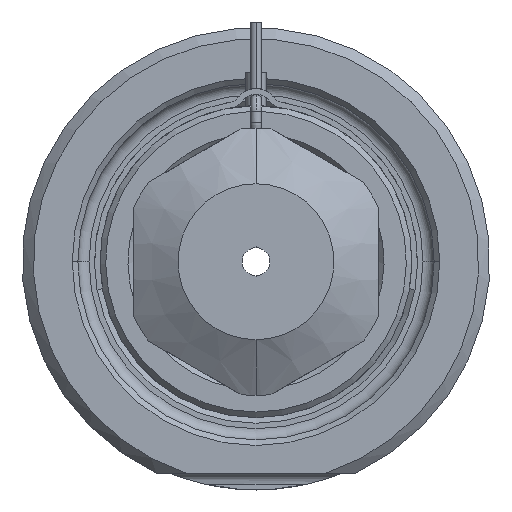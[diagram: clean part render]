
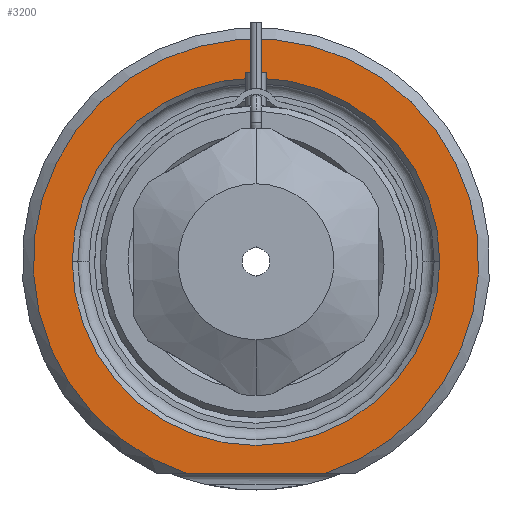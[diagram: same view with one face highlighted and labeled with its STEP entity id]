
A CAD part, front view. The second image highlights one B-rep face of the part: STEP entity #3200.
In plain terms, the highlighted planar face has unit normal (0, -1, 0).
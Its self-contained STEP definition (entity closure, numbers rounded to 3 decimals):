
#1=DIRECTION('',(1.,0.,0.));
#2=VECTOR('',#1,12.49);
#3=CARTESIAN_POINT('',(-6.245,0.,-19.));
#4=LINE('',#3,#2);
#5=CARTESIAN_POINT('',(0.,0.,0.));
#6=DIRECTION('',(0.,1.,0.));
#7=DIRECTION('',(-1.,0.,0.));
#8=AXIS2_PLACEMENT_3D('',#5,#6,#7);
#10=CARTESIAN_POINT('',(0.,0.,0.));
#11=DIRECTION('',(0.,1.,0.));
#12=DIRECTION('',(1.,0.,0.));
#13=AXIS2_PLACEMENT_3D('',#10,#11,#12);
#119=CARTESIAN_POINT('',(0.,0.,0.));
#120=DIRECTION('',(0.,-1.,0.));
#121=DIRECTION('',(0.312,0.,-0.95));
#122=AXIS2_PLACEMENT_3D('',#119,#120,#121);
#2658=CARTESIAN_POINT('',(-16.5,0.,0.));
#2659=CARTESIAN_POINT('',(16.5,0.,0.));
#2660=VERTEX_POINT('',#2658);
#2661=VERTEX_POINT('',#2659);
#2698=CARTESIAN_POINT('',(-6.245,0.,-19.));
#2699=CARTESIAN_POINT('',(6.245,0.,-19.));
#2700=VERTEX_POINT('',#2698);
#2701=VERTEX_POINT('',#2699);
#3183=CARTESIAN_POINT('',(0.,0.,0.));
#3184=DIRECTION('',(0.,-1.,0.));
#3185=DIRECTION('',(1.,0.,0.));
#3186=AXIS2_PLACEMENT_3D('',#3183,#3184,#3185);
#3187=PLANE('',#3186);
#3189=ORIENTED_EDGE('',*,*,#3188,.F.);
#3191=ORIENTED_EDGE('',*,*,#3190,.F.);
#3192=EDGE_LOOP('',(#3189,#3191));
#3193=FACE_OUTER_BOUND('',#3192,.F.);
#3195=ORIENTED_EDGE('',*,*,#3194,.F.);
#3197=ORIENTED_EDGE('',*,*,#3196,.F.);
#3198=EDGE_LOOP('',(#3195,#3197));
#3199=FACE_BOUND('',#3198,.F.);
#3200=ADVANCED_FACE('',(#3193,#3199),#3187,.T.);
#9=CIRCLE('',#8,16.5);
#14=CIRCLE('',#13,16.5);
#123=CIRCLE('',#122,20.);
#3188=EDGE_CURVE('',#2700,#2701,#4,.T.);
#3190=EDGE_CURVE('',#2701,#2700,#123,.T.);
#3194=EDGE_CURVE('',#2660,#2661,#9,.T.);
#3196=EDGE_CURVE('',#2661,#2660,#14,.T.);
